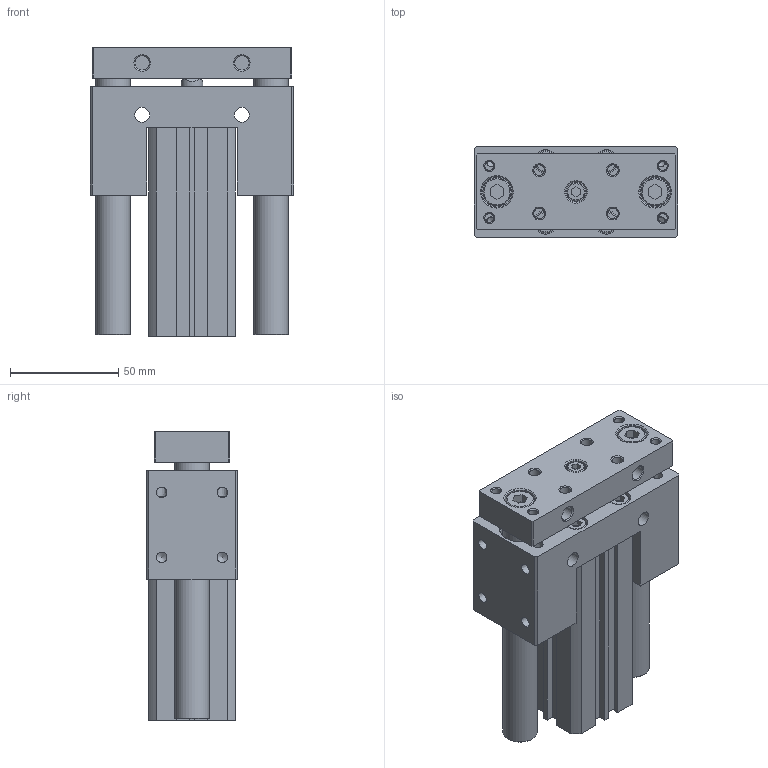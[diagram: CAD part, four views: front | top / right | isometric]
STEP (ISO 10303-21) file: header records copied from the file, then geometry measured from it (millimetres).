
FILE_DESCRIPTION((''),'2;1');
FILE_NAME('I:\3D電子目錄\氣缸\JCB\JCB\JCB25-S\JCB25x65-S.stp','2007-08-21T19:26:55',('Administrator'),(''),'Autodesk Inventor 11','Autodesk Inventor 11','');
FILE_SCHEMA(('AUTOMOTIVE_DESIGN { 1 0 10303 214 1 1 1 1 }'));
Length unit declared in the file: millimetre
Products named in the file (1): JCB25
Bounding box: 94 x 42 x 133.2 mm (x, y, z)
Volume: 322284.2 mm3; surface area: 90430.5 mm2
Topology: 5 solids, 5 shells, 323 faces, 740 edges, 483 vertices
Faces by surface type: plane 172, bspline 61, cylinder 47, cone 35, torus 8
Full cylindrical faces by diameter (mm): 1.5 x2, 4.917 x4, 5.1 x4, 6.647 x2, 8 x8, 8.5 x1, 10 x5, 11 x1, 13 x2, 16 x2, 17 x2, 18 x2, 28 x4, 29.4 x2
Entity records: 8980 total; most frequent: CARTESIAN_POINT 2309, DIRECTION 1332, ORIENTED_EDGE 1160, EDGE_CURVE 580, EDGE_LOOP 544, AXIS2_PLACEMENT_3D 493, VERTEX_POINT 454, VECTOR 346
